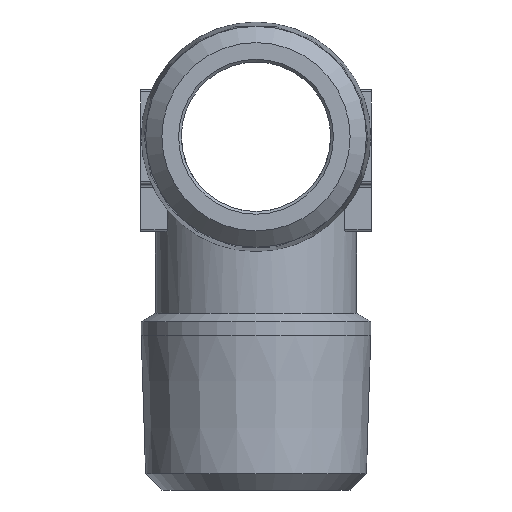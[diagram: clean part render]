
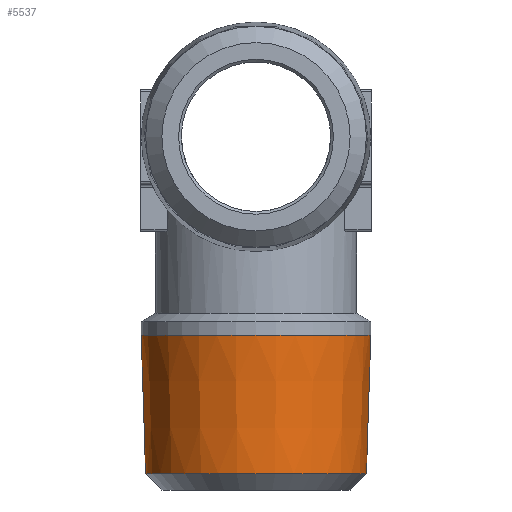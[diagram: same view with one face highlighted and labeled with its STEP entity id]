
A CAD part, left-side view. The second image highlights one B-rep face of the part: STEP entity #5537.
In plain terms, the highlighted conical face has half-angle 1.79 degrees and reference radius 8.447 mm.
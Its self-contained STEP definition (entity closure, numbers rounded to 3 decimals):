
#1442=CONICAL_SURFACE('',#5421,8.447,1.79);
#1468=ORIENTED_EDGE('',*,*,#1844,.F.);
#1469=ORIENTED_EDGE('',*,*,#1845,.T.);
#1708=CIRCLE('',#5420,8.128);
#1709=CIRCLE('',#5422,8.447);
#1753=VERTEX_POINT('',#2413);
#1754=VERTEX_POINT('',#2416);
#1844=EDGE_CURVE('',#1753,#1753,#1708,.T.);
#1845=EDGE_CURVE('',#1754,#1754,#1709,.T.);
#1975=EDGE_LOOP('',(#1468));
#1976=EDGE_LOOP('',(#1469));
#2055=FACE_BOUND('',#1975,.T.);
#2056=FACE_BOUND('',#1976,.T.);
#2152=DIRECTION('',(0.,-1.,0.));
#2153=DIRECTION('',(0.,0.,8.128));
#2154=DIRECTION('',(0.,1.,0.));
#2155=DIRECTION('',(0.,0.,1.));
#2156=DIRECTION('',(0.,-1.,0.));
#2157=DIRECTION('',(0.,0.,8.447));
#2413=CARTESIAN_POINT('',(39.115,8.46,8.128));
#2414=CARTESIAN_POINT('',(39.115,8.46,0.));
#2415=CARTESIAN_POINT('',(39.115,18.66,0.));
#2416=CARTESIAN_POINT('',(39.115,18.66,-8.447));
#2417=CARTESIAN_POINT('',(39.115,18.66,0.));
#5420=AXIS2_PLACEMENT_3D('',#2414,#2152,#2153);
#5421=AXIS2_PLACEMENT_3D('',#2415,#2154,#2155);
#5422=AXIS2_PLACEMENT_3D('',#2417,#2156,#2157);
#5537=ADVANCED_FACE('',(#2055,#2056),#1442,.T.);
